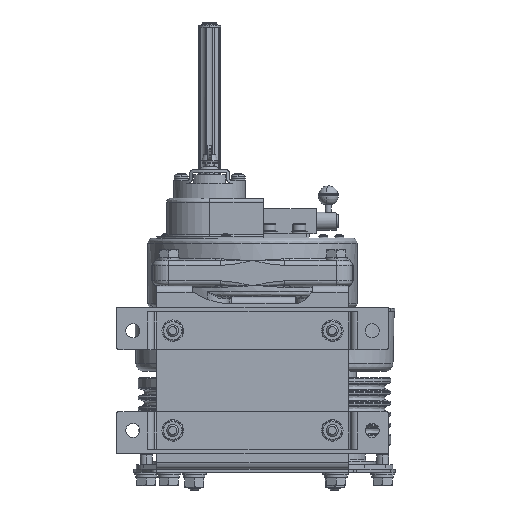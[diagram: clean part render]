
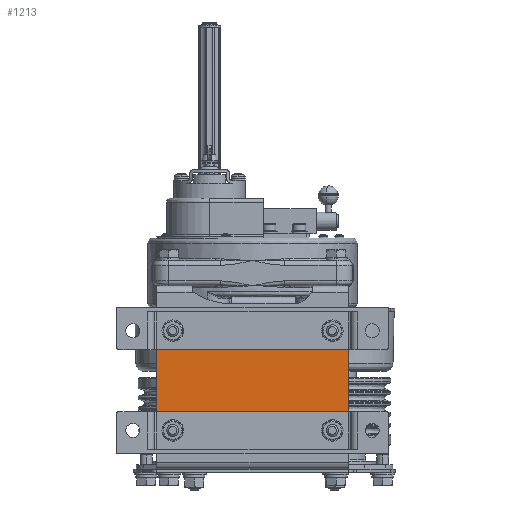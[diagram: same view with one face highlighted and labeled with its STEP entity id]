
A CAD part, front view. The second image highlights one B-rep face of the part: STEP entity #1213.
In plain terms, the highlighted planar face has unit normal (0, -1, 0).
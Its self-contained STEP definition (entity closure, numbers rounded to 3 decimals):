
#1213=ADVANCED_FACE('',(#12450),#12449,.T.);
#12449=PLANE('',#30916);
#12450=FACE_OUTER_BOUND('',#30917,.T.);
#30913=CARTESIAN_POINT('',(1448.16,-105.5,-280.744));
#30914=DIRECTION('',(0.,-1.,0.));
#30915=DIRECTION('',(0.,0.,1.));
#30916=AXIS2_PLACEMENT_3D('',#30913,#30914,#30915);
#30917=EDGE_LOOP('',(#45241,#45242,#45243,#45244));
#45241=ORIENTED_EDGE('',*,*,#51582,.T.);
#45242=ORIENTED_EDGE('',*,*,#52698,.T.);
#45243=ORIENTED_EDGE('',*,*,#51589,.F.);
#45244=ORIENTED_EDGE('',*,*,#51162,.F.);
#51162=EDGE_CURVE('',#59890,#60004,#60005,.T.);
#51582=EDGE_CURVE('',#59890,#62848,#62855,.T.);
#51589=EDGE_CURVE('',#60004,#60046,#62900,.T.);
#52698=EDGE_CURVE('',#62848,#60046,#70317,.T.);
#59890=VERTEX_POINT('',#93703);
#60004=VERTEX_POINT('',#93773);
#60005=LINE('',#93774,#93775);
#60046=VERTEX_POINT('',#93797);
#62848=VERTEX_POINT('',#96222);
#62855=LINE('',#96226,#96227);
#62900=LINE('',#96252,#96253);
#70317=LINE('',#101397,#101398);
#93703=CARTESIAN_POINT('',(1438.16,-105.5,-274.544));
#93773=CARTESIAN_POINT('',(1246.16,-105.5,-274.544));
#93774=CARTESIAN_POINT('',(1438.16,-105.5,-274.544));
#93775=VECTOR('',#93776,192.);
#93776=DIRECTION('',(-1.,0.,0.));
#93797=CARTESIAN_POINT('',(1246.16,-105.5,-212.544));
#96222=CARTESIAN_POINT('',(1438.16,-105.5,-212.544));
#96226=CARTESIAN_POINT('',(1438.16,-105.5,-274.544));
#96227=VECTOR('',#96228,62.);
#96228=DIRECTION('',(0.,0.,1.));
#96252=CARTESIAN_POINT('',(1246.16,-105.5,-274.544));
#96253=VECTOR('',#96254,62.);
#96254=DIRECTION('',(0.,0.,1.));
#101397=CARTESIAN_POINT('',(1438.16,-105.5,-212.544));
#101398=VECTOR('',#101399,192.);
#101399=DIRECTION('',(-1.,0.,0.));
